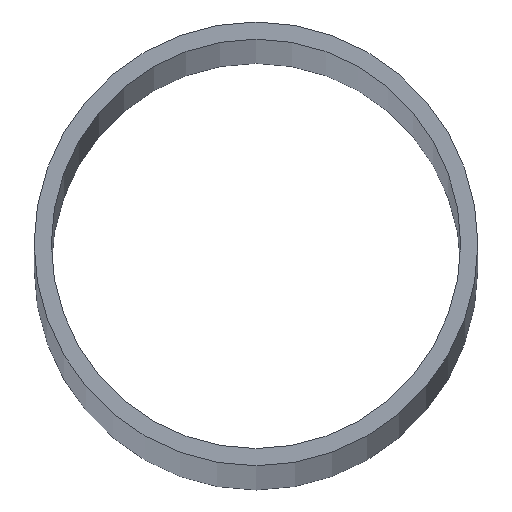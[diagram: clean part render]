
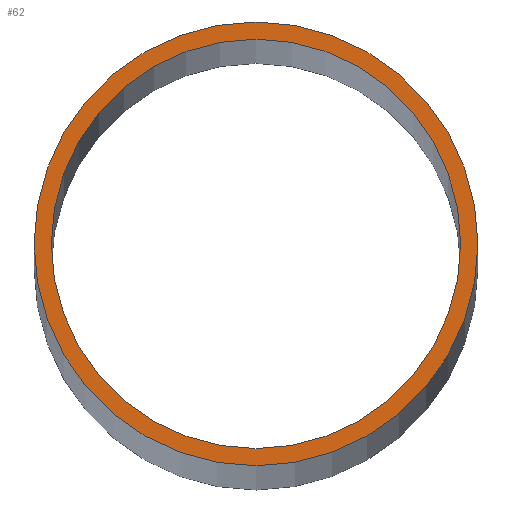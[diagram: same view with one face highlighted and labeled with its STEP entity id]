
A CAD part, top view. The second image highlights one B-rep face of the part: STEP entity #62.
In plain terms, the highlighted planar face has unit normal (0, 0, 1).
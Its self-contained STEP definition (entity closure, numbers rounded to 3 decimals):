
#15=PLANE('',#90);
#19=FACE_BOUND('',#31,.T.);
#23=FACE_OUTER_BOUND('',#30,.T.);
#30=EDGE_LOOP('',(#50));
#31=EDGE_LOOP('',(#51));
#32=CIRCLE('',#84,73.8);
#34=CIRCLE('',#87,80.);
#36=VERTEX_POINT('',#111);
#38=VERTEX_POINT('',#116);
#40=EDGE_CURVE('',#36,#36,#32,.T.);
#42=EDGE_CURVE('',#38,#38,#34,.T.);
#50=ORIENTED_EDGE('',*,*,#42,.T.);
#51=ORIENTED_EDGE('',*,*,#40,.T.);
#62=ADVANCED_FACE('',(#23,#19),#15,.T.);
#84=AXIS2_PLACEMENT_3D('',#112,#95,#96);
#87=AXIS2_PLACEMENT_3D('',#117,#101,#102);
#90=AXIS2_PLACEMENT_3D('',#121,#107,#108);
#95=DIRECTION('center_axis',(0.,0.,-1.));
#96=DIRECTION('ref_axis',(-1.,0.,0.));
#101=DIRECTION('center_axis',(0.,0.,1.));
#102=DIRECTION('ref_axis',(-1.,0.,0.));
#107=DIRECTION('center_axis',(0.,0.,1.));
#108=DIRECTION('ref_axis',(1.,0.,0.));
#111=CARTESIAN_POINT('',(73.8,0.,5000.));
#112=CARTESIAN_POINT('Origin',(0.,0.,5000.));
#116=CARTESIAN_POINT('',(80.,0.,5000.));
#117=CARTESIAN_POINT('Origin',(0.,0.,5000.));
#121=CARTESIAN_POINT('Origin',(0.,0.,5000.));
